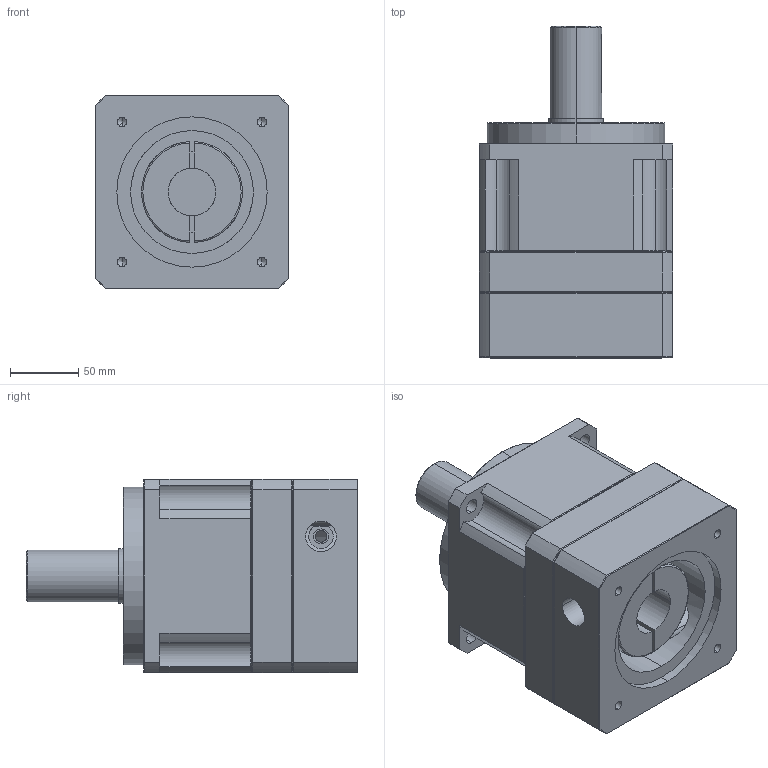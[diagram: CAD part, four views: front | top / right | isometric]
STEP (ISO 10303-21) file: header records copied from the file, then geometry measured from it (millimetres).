
FILE_DESCRIPTION (( 'STEP AP203' ), '1' );
FILE_NAME ('MF150H-L1£r110PCD£r145M8.STEP', '2014-04-21T06:09:40', ( 'KELLY' ), ( '' ), 'SwSTEP 2.0', 'SolidWorks 2012', '' );
FILE_SCHEMA (( 'CONFIG_CONTROL_DESIGN' ));
Length unit declared in the file: millimetre
Products named in the file (1): MF150H-L1｣r110PCD｣r145M8
Bounding box: 142 x 243 x 142 mm (x, y, z)
Volume: 2904902.4 mm3; surface area: 231890.6 mm2
Topology: 2 solids, 2 shells, 209 faces, 503 edges, 303 vertices
Faces by surface type: cylinder 85, plane 70, cone 48, torus 6
Entity records: 6753 total; most frequent: CARTESIAN_POINT 1829, DIRECTION 1037, ORIENTED_EDGE 986, EDGE_CURVE 493, AXIS2_PLACEMENT_3D 414, VERTEX_POINT 303, EDGE_LOOP 244, ADVANCED_FACE 209
